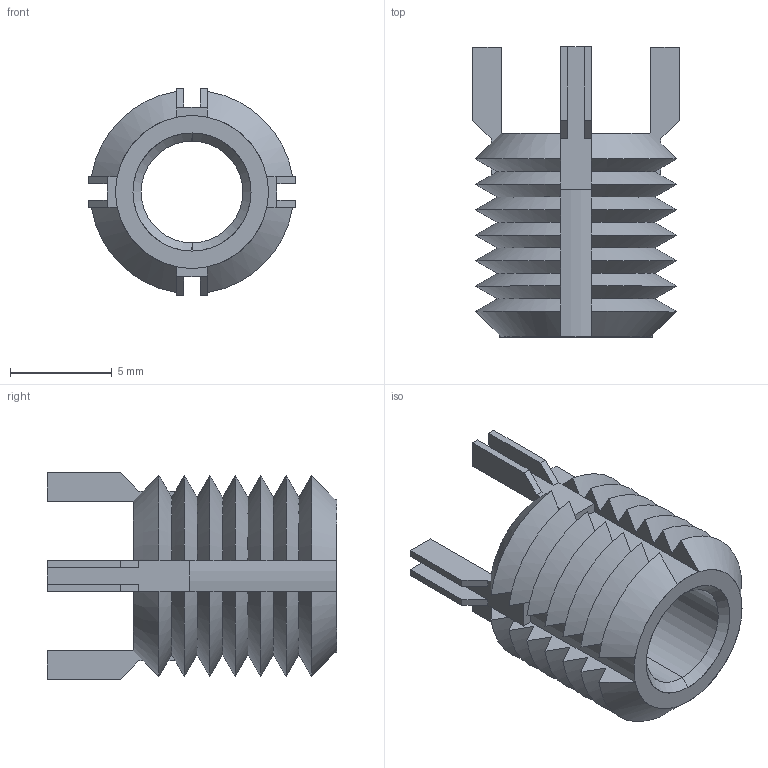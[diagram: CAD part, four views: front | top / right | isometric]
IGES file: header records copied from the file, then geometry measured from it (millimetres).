
Start section: SolidWorks IGES file using analytic representation for surfaces
Global section: file name: C:\Users\IanO\Desktop\PDF data sheets and models from M drive\TR1525_v2_20230326_IGES\TR1525.65964.igs; native system: SolidWorks 2019; preprocessor: SolidWorks 2019; author: IanO; date: 230326.184834; units: millimetre
Bounding box: 10.15 x 14.25 x 10.15 mm (x, y, z)
Surface area: 848.3 mm2 (no closed solid volume)
Topology: 0 solids, 0 shells, 140 faces, 864 edges, 864 vertices
Faces by surface type: bspline 74, revolution 66
